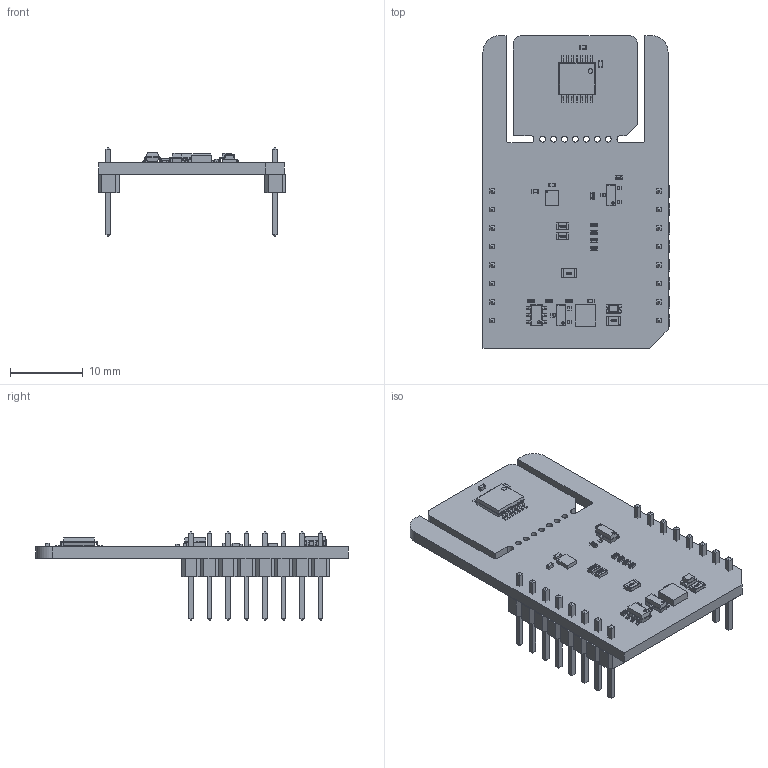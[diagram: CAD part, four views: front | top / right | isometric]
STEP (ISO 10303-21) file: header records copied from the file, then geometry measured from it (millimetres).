
FILE_DESCRIPTION(('Open CASCADE Model'),'2;1');
FILE_NAME('Open CASCADE Shape Model','2025-12-29T11:36:51',('Author'),( 'Open CASCADE'),'Open CASCADE STEP processor 6.8','Open CASCADE 6.8' ,'Unknown');
FILE_SCHEMA(('AUTOMOTIVE_DESIGN { 1 0 10303 214 1 1 1 1 }'));
Length unit declared in the file: millimetre
Products named in the file (51): PCB; Board; C4; User_Library-SMD_CAPACITOR0402; C5; U4; 1057455800; Extruded; 1111399696; Cylinder; R10; User_Library-R_0402; R9; Q2; SOT23-3; JP3; User_Library-R_0805; U3; User_Library-TSSOP-14; User_Library-TSSOP-14__X2_041A043E0440043F04430441_X0_; User_Library-TSSOP-14__X2_041C04350442043A0430_X0_; User_Library-TSSOP-14__X2_041D043E0436043A0430_X0_; U2; User_Library-SOT23-6-2; U1; 1057454712; Q1; R4; C1; R2; LD1; led_0805_green; R1; R3; JP2; User_Library-R_0603; R8; R7; R6; R5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
Assembly tree (73 placements, depth 7):
  PCB
    Board
    C4
      User_Library-SMD_CAPACITOR0402
    C5
      User_Library-SMD_CAPACITOR0402
    U4
      1057455800
        Extruded
      1111399696
        Cylinder
    R10
      User_Library-R_0402
    R9
      User_Library-R_0402
    Q2
      SOT23-3
    JP3
      User_Library-R_0805
    U3
      User_Library-TSSOP-14
        User_Library-TSSOP-14__X2_041A043E0440043F04430441_X0_
        User_Library-TSSOP-14__X2_041C04350442043A0430_X0_
        User_Library-TSSOP-14__X2_041D043E0436043A0430_X0_  x7
    U2
      User_Library-SOT23-6-2
    U1
      1057454712
        Extruded
    Q1
      SOT23-3
    R4
      User_Library-R_0402
    C1
      User_Library-SMD_CAPACITOR0402
    R2
      User_Library-R_0402
    LD1
      led_0805_green
    R1
      User_Library-R_0805
    R3
      User_Library-R_0402
    JP2
      User_Library-R_0603
    R8
      User_Library-R_0402
    R7
      User_Library-R_0402
    R6
      User_Library-R_0402
    R5
      User_Library-R_0402
    JP1
      User_Library-R_0603
    C3
      User_Library-SMD_CAPACITOR0402
    C2
      User_Library-SMD_CAPACITOR0402
    MBD1
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Bounding box: 25.78 x 42.93 x 12.19 mm (x, y, z)
Volume: 2182.5 mm3; surface area: 4042.4 mm2
Topology: 89 solids, 89 shells, 2389 faces, 5978 edges, 3832 vertices
Faces by surface type: plane 1716, bspline 408, cylinder 215, sphere 50
Full cylindrical faces by diameter (mm): 0.2 x1, 0.8 x7
Entity records: 33310 total; most frequent: CARTESIAN_POINT 11100, ORIENTED_EDGE 3712, DIRECTION 3234, EDGE_CURVE 1856, LINE 1438, VECTOR 1438, VERTEX_POINT 1192, AXIS2_PLACEMENT_3D 898
